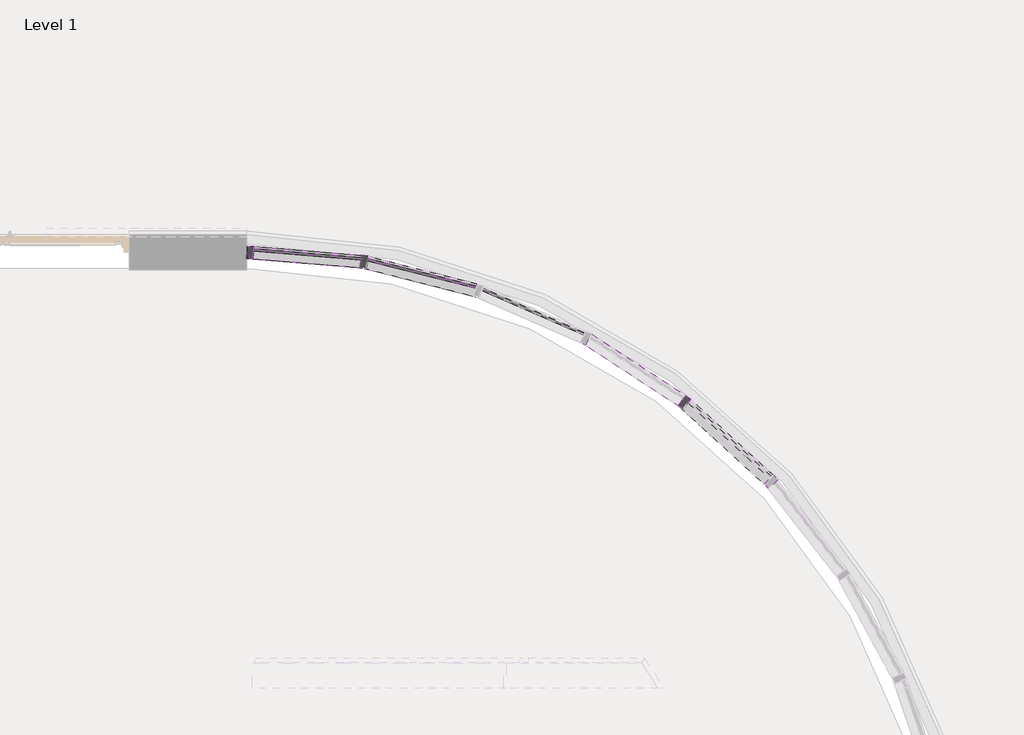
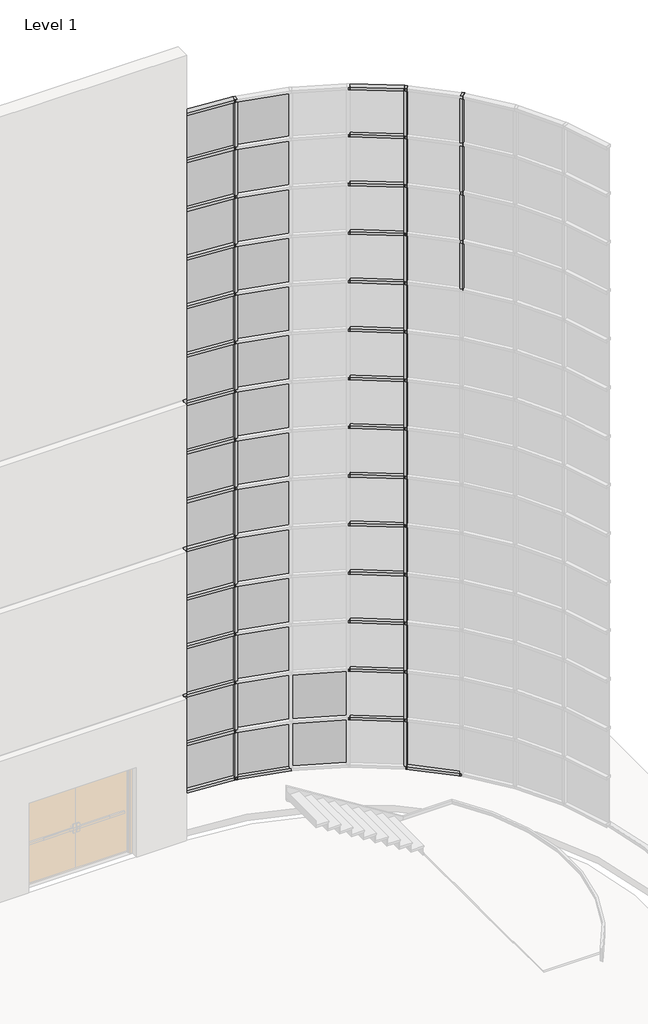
# One storey, part 14 of 20: 77 members, 30 plates.
"""IFC4 building model written with IfcOpenShell, lengths in millimetres."""

from ifc_helpers import new_model, si_unit, origin, place, context, project, spatial, transform, mapped, element, save
from components import member_252506b7, member_68fe8548, member_6fd4d727, member_43d56b1e, member_f830fa99, member_935f61b8, member_e2a7e38a, system_panel_glazed_e4675ec4, system_panel_glazed_da602fa6, system_panel_glazed_b699a21d, system_panel_glazed_77fd207e

model = new_model("IFC4")

# Units and contexts
model_context = context("Model", 3, world=origin())
ifc_project = project(units=[si_unit("LENGTHUNIT", "METRE", prefix="MILLI")], contexts=[model_context])

# Site, building, storey
site = spatial("IfcSite", under=ifc_project)
building = spatial("IfcBuilding", under=site)
storey = spatial("IfcBuildingStorey", under=building, Name="Level 1", Elevation=0.0)

# Members
placement = place(None, origin())
member_shape = member_252506b7(model_context)
element("IfcMember", 1, ObjectType="Rectangular Mullion : 2.5\" x 5\" rectangular", at=placement, inside=storey, context=model_context, shape_type="MappedRepresentation", body=[
    mapped(member_shape, transform((19081.3311433, 4538.4327406, 17983.2), x_axis=(0.0, 0.0, 1.0), y_axis=(-0.08257934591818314, -0.9965844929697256, 0.0), z_axis=(0.9965844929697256, -0.08257934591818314, 0.0))),
])
member_2_shape = member_68fe8548(model_context)
element("IfcMember", 2, ObjectType="Rectangular Mullion : 2.5\" x 5\" rectangular", at=placement, inside=storey, context=model_context, shape_type="MappedRepresentation", body=[
    mapped(member_2_shape, transform((22296.2108179, 3145.2196657, 17983.2), x_axis=(0.0, 0.0, 1.0), y_axis=(-0.5469481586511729, -0.8371664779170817, 0.0), z_axis=(0.8371664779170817, -0.5469481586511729, 0.0))),
])
member_3_shape = member_6fd4d727(model_context)
element("IfcMember", 3, ObjectType="Rectangular Mullion : 2.5\" x 5\" rectangular", at=placement, inside=storey, context=model_context, shape_type="MappedRepresentation", body=[
    mapped(member_3_shape, transform((18001.2170874, 4627.9335435, 1092.2), x_axis=(0.0, 0.0, -1.0), y_axis=(-0.08257934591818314, -0.9965844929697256, 0.0), z_axis=(-0.9965844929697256, 0.08257934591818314, 0.0))),
])
element("IfcMember", 4, ObjectType="Rectangular Mullion : 2.5\" x 5\" rectangular", at=placement, inside=storey, context=model_context, shape_type="MappedRepresentation", body=[
    mapped(member_2_shape, transform((19143.7511594, 4528.0166821, 1092.2), x_axis=(0.0, 0.0, -1.0), y_axis=(-0.2454854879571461, -0.9694002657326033, 0.0), z_axis=(-0.9694002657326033, 0.2454854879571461, 0.0))),
])
element("IfcMember", 5, ObjectType="Rectangular Mullion : 2.5\" x 5\" rectangular", at=placement, inside=storey, context=model_context, shape_type="MappedRepresentation", body=[
    mapped(member_2_shape, transform((22346.1500877, 3106.3503718, 1092.2), x_axis=(0.0, 0.0, -1.0), y_axis=(-0.6772815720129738, -0.735723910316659, 0.0), z_axis=(-0.7357239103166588, 0.6772815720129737, 0.0))),
])
member_4_shape = member_43d56b1e(model_context)
element("IfcMember", 6, ObjectType="Rectangular Mullion : 2.5\" x 5\" rectangular", at=placement, inside=storey, context=model_context, shape_type="MappedRepresentation", body=[
    mapped(member_4_shape, transform((19081.3311433, 4538.4327406, 2298.7), x_axis=(0.0, 0.0, 1.0), y_axis=(-0.08257934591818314, -0.9965844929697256, 0.0), z_axis=(0.9965844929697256, -0.08257934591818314, 0.0))),
])
element("IfcMember", 7, ObjectType="Rectangular Mullion : 2.5\" x 5\" rectangular", at=placement, inside=storey, context=model_context, shape_type="MappedRepresentation", body=[
    mapped(member_4_shape, transform((19081.3311433, 4538.4327406, 3505.2), x_axis=(0.0, 0.0, 1.0), y_axis=(-0.08257934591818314, -0.9965844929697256, 0.0), z_axis=(0.9965844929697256, -0.08257934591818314, 0.0))),
])
element("IfcMember", 8, ObjectType="Rectangular Mullion : 2.5\" x 5\" rectangular", at=placement, inside=storey, context=model_context, shape_type="MappedRepresentation", body=[
    mapped(member_4_shape, transform((19081.3311433, 4538.4327406, 4711.7), x_axis=(0.0, 0.0, 1.0), y_axis=(-0.08257934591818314, -0.9965844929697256, 0.0), z_axis=(0.9965844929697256, -0.08257934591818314, 0.0))),
])
element("IfcMember", 9, ObjectType="Rectangular Mullion : 2.5\" x 5\" rectangular", at=placement, inside=storey, context=model_context, shape_type="MappedRepresentation", body=[
    mapped(member_4_shape, transform((19081.3311433, 4538.4327406, 5918.2), x_axis=(0.0, 0.0, 1.0), y_axis=(-0.08257934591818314, -0.9965844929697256, 0.0), z_axis=(0.9965844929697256, -0.08257934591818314, 0.0))),
])
element("IfcMember", 10, ObjectType="Rectangular Mullion : 2.5\" x 5\" rectangular", at=placement, inside=storey, context=model_context, shape_type="MappedRepresentation", body=[
    mapped(member_4_shape, transform((19081.3311433, 4538.4327406, 7124.7), x_axis=(0.0, 0.0, 1.0), y_axis=(-0.08257934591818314, -0.9965844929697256, 0.0), z_axis=(0.9965844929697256, -0.08257934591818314, 0.0))),
])
element("IfcMember", 11, ObjectType="Rectangular Mullion : 2.5\" x 5\" rectangular", at=placement, inside=storey, context=model_context, shape_type="MappedRepresentation", body=[
    mapped(member_4_shape, transform((19081.3311433, 4538.4327406, 8331.2), x_axis=(0.0, 0.0, 1.0), y_axis=(-0.08257934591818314, -0.9965844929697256, 0.0), z_axis=(0.9965844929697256, -0.08257934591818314, 0.0))),
])
element("IfcMember", 12, ObjectType="Rectangular Mullion : 2.5\" x 5\" rectangular", at=placement, inside=storey, context=model_context, shape_type="MappedRepresentation", body=[
    mapped(member_4_shape, transform((19081.3311433, 4538.4327406, 9537.7), x_axis=(0.0, 0.0, 1.0), y_axis=(-0.08257934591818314, -0.9965844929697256, 0.0), z_axis=(0.9965844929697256, -0.08257934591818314, 0.0))),
])
element("IfcMember", 13, ObjectType="Rectangular Mullion : 2.5\" x 5\" rectangular", at=placement, inside=storey, context=model_context, shape_type="MappedRepresentation", body=[
    mapped(member_4_shape, transform((19081.3311433, 4538.4327406, 10744.2), x_axis=(0.0, 0.0, 1.0), y_axis=(-0.08257934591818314, -0.9965844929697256, 0.0), z_axis=(0.9965844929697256, -0.08257934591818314, 0.0))),
])
element("IfcMember", 14, ObjectType="Rectangular Mullion : 2.5\" x 5\" rectangular", at=placement, inside=storey, context=model_context, shape_type="MappedRepresentation", body=[
    mapped(member_4_shape, transform((19081.3311433, 4538.4327406, 11950.7), x_axis=(0.0, 0.0, 1.0), y_axis=(-0.08257934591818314, -0.9965844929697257, 0.0), z_axis=(0.9965844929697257, -0.08257934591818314, 0.0))),
])
element("IfcMember", 15, ObjectType="Rectangular Mullion : 2.5\" x 5\" rectangular", at=placement, inside=storey, context=model_context, shape_type="MappedRepresentation", body=[
    mapped(member_4_shape, transform((19081.3311433, 4538.4327406, 13157.2), x_axis=(0.0, 0.0, 1.0), y_axis=(-0.08257934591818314, -0.9965844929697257, 0.0), z_axis=(0.9965844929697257, -0.08257934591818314, 0.0))),
])
element("IfcMember", 16, ObjectType="Rectangular Mullion : 2.5\" x 5\" rectangular", at=placement, inside=storey, context=model_context, shape_type="MappedRepresentation", body=[
    mapped(member_4_shape, transform((19081.3311433, 4538.4327406, 14363.7), x_axis=(0.0, 0.0, 1.0), y_axis=(-0.08257934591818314, -0.9965844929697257, 0.0), z_axis=(0.9965844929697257, -0.08257934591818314, 0.0))),
])
element("IfcMember", 17, ObjectType="Rectangular Mullion : 2.5\" x 5\" rectangular", at=placement, inside=storey, context=model_context, shape_type="MappedRepresentation", body=[
    mapped(member_4_shape, transform((19081.3311433, 4538.4327406, 15570.2), x_axis=(0.0, 0.0, 1.0), y_axis=(-0.08257934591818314, -0.9965844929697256, 0.0), z_axis=(0.9965844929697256, -0.08257934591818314, 0.0))),
])
element("IfcMember", 18, ObjectType="Rectangular Mullion : 2.5\" x 5\" rectangular", at=placement, inside=storey, context=model_context, shape_type="MappedRepresentation", body=[
    mapped(member_4_shape, transform((19081.3311433, 4538.4327406, 16776.7), x_axis=(0.0, 0.0, 1.0), y_axis=(-0.08257934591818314, -0.9965844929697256, 0.0), z_axis=(0.9965844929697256, -0.08257934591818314, 0.0))),
])
member_5_shape = member_f830fa99(model_context)
element("IfcMember", 19, ObjectType="Rectangular Mullion : 2.5\" x 5\" rectangular", at=placement, inside=storey, context=model_context, shape_type="MappedRepresentation", body=[
    mapped(member_5_shape, transform((22296.2108179, 3145.2196657, 2298.7), x_axis=(0.0, 0.0, 1.0), y_axis=(-0.5469481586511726, -0.8371664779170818, 0.0), z_axis=(0.8371664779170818, -0.5469481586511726, 0.0))),
])
element("IfcMember", 20, ObjectType="Rectangular Mullion : 2.5\" x 5\" rectangular", at=placement, inside=storey, context=model_context, shape_type="MappedRepresentation", body=[
    mapped(member_5_shape, transform((22296.2108179, 3145.2196657, 3505.2), x_axis=(0.0, 0.0, 1.0), y_axis=(-0.546948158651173, -0.8371664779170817, 0.0), z_axis=(0.8371664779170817, -0.546948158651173, 0.0))),
])
element("IfcMember", 21, ObjectType="Rectangular Mullion : 2.5\" x 5\" rectangular", at=placement, inside=storey, context=model_context, shape_type="MappedRepresentation", body=[
    mapped(member_5_shape, transform((22296.2108179, 3145.2196657, 4711.7), x_axis=(0.0, 0.0, 1.0), y_axis=(-0.546948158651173, -0.8371664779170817, 0.0), z_axis=(0.8371664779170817, -0.546948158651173, 0.0))),
])
element("IfcMember", 22, ObjectType="Rectangular Mullion : 2.5\" x 5\" rectangular", at=placement, inside=storey, context=model_context, shape_type="MappedRepresentation", body=[
    mapped(member_5_shape, transform((22296.2108179, 3145.2196657, 5918.2), x_axis=(0.0, 0.0, 1.0), y_axis=(-0.5469481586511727, -0.8371664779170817, 0.0), z_axis=(0.8371664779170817, -0.5469481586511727, 0.0))),
])
element("IfcMember", 23, ObjectType="Rectangular Mullion : 2.5\" x 5\" rectangular", at=placement, inside=storey, context=model_context, shape_type="MappedRepresentation", body=[
    mapped(member_5_shape, transform((22296.2108179, 3145.2196657, 7124.7), x_axis=(0.0, 0.0, 1.0), y_axis=(-0.5469481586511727, -0.8371664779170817, 0.0), z_axis=(0.8371664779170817, -0.5469481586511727, 0.0))),
])
element("IfcMember", 24, ObjectType="Rectangular Mullion : 2.5\" x 5\" rectangular", at=placement, inside=storey, context=model_context, shape_type="MappedRepresentation", body=[
    mapped(member_5_shape, transform((22296.2108179, 3145.2196657, 8331.2), x_axis=(0.0, 0.0, 1.0), y_axis=(-0.546948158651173, -0.8371664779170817, 0.0), z_axis=(0.8371664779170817, -0.546948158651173, 0.0))),
])
element("IfcMember", 25, ObjectType="Rectangular Mullion : 2.5\" x 5\" rectangular", at=placement, inside=storey, context=model_context, shape_type="MappedRepresentation", body=[
    mapped(member_5_shape, transform((22296.2108179, 3145.2196657, 9537.7), x_axis=(0.0, 0.0, 1.0), y_axis=(-0.546948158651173, -0.8371664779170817, 0.0), z_axis=(0.8371664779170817, -0.546948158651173, 0.0))),
])
element("IfcMember", 26, ObjectType="Rectangular Mullion : 2.5\" x 5\" rectangular", at=placement, inside=storey, context=model_context, shape_type="MappedRepresentation", body=[
    mapped(member_5_shape, transform((22296.2108179, 3145.2196657, 10744.2), x_axis=(0.0, 0.0, 1.0), y_axis=(-0.5469481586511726, -0.8371664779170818, 0.0), z_axis=(0.8371664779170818, -0.5469481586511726, 0.0))),
])
element("IfcMember", 27, ObjectType="Rectangular Mullion : 2.5\" x 5\" rectangular", at=placement, inside=storey, context=model_context, shape_type="MappedRepresentation", body=[
    mapped(member_5_shape, transform((22296.2108179, 3145.2196657, 11950.7), x_axis=(0.0, 0.0, 1.0), y_axis=(-0.546948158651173, -0.8371664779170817, 0.0), z_axis=(0.8371664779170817, -0.546948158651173, 0.0))),
])
element("IfcMember", 28, ObjectType="Rectangular Mullion : 2.5\" x 5\" rectangular", at=placement, inside=storey, context=model_context, shape_type="MappedRepresentation", body=[
    mapped(member_5_shape, transform((22296.2108179, 3145.2196657, 13157.2), x_axis=(0.0, 0.0, 1.0), y_axis=(-0.5469481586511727, -0.8371664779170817, 0.0), z_axis=(0.8371664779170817, -0.5469481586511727, 0.0))),
])
element("IfcMember", 29, ObjectType="Rectangular Mullion : 2.5\" x 5\" rectangular", at=placement, inside=storey, context=model_context, shape_type="MappedRepresentation", body=[
    mapped(member_5_shape, transform((22296.2108179, 3145.2196657, 14363.7), x_axis=(0.0, 0.0, 1.0), y_axis=(-0.5469481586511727, -0.8371664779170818, 0.0), z_axis=(0.8371664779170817, -0.5469481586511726, 0.0))),
])
element("IfcMember", 30, ObjectType="Rectangular Mullion : 2.5\" x 5\" rectangular", at=placement, inside=storey, context=model_context, shape_type="MappedRepresentation", body=[
    mapped(member_5_shape, transform((22296.2108179, 3145.2196657, 15570.2), x_axis=(0.0, 0.0, 1.0), y_axis=(-0.546948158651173, -0.8371664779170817, 0.0), z_axis=(0.8371664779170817, -0.546948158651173, 0.0))),
])
element("IfcMember", 31, ObjectType="Rectangular Mullion : 2.5\" x 5\" rectangular", at=placement, inside=storey, context=model_context, shape_type="MappedRepresentation", body=[
    mapped(member_5_shape, transform((22296.2108179, 3145.2196657, 16776.7), x_axis=(0.0, 0.0, 1.0), y_axis=(-0.546948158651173, -0.8371664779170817, 0.0), z_axis=(0.8371664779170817, -0.546948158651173, 0.0))),
])
member_6_shape = member_935f61b8(model_context)
element("IfcMember", 32, ObjectType="Rectangular Mullion : 2.5\" x 5\" rectangular", at=placement, inside=storey, context=model_context, shape_type="MappedRepresentation", body=[
    mapped(member_6_shape, transform((19112.972701, 4535.8108464, 1092.2), x_axis=(0.9863613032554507, -0.16459459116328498, 0.0), y_axis=(-0.16459459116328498, -0.9863613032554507, 0.0), z_axis=(0.0, 0.0, -1.0))),
])
element("IfcMember", 33, ObjectType="Rectangular Mullion : 2.5\" x 5\" rectangular", at=placement, inside=storey, context=model_context, shape_type="MappedRepresentation", body=[
    mapped(member_6_shape, transform((22322.7908536, 3127.8540617, 1092.2), x_axis=(0.789140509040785, -0.6142127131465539, 0.0), y_axis=(-0.6142127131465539, -0.789140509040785, 0.0), z_axis=(0.0, 0.0, -1.0))),
])
element("IfcMember", 34, ObjectType="Rectangular Mullion : 2.5\" x 5\" rectangular", at=placement, inside=storey, context=model_context, shape_type="MappedRepresentation", body=[
    mapped(member_6_shape, transform((19112.972701, 4535.8108464, 2298.7), x_axis=(0.9863613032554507, -0.16459459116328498, 0.0), y_axis=(-0.16459459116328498, -0.9863613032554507, 0.0), z_axis=(0.0, 0.0, -1.0))),
])
element("IfcMember", 35, ObjectType="Rectangular Mullion : 2.5\" x 5\" rectangular", at=placement, inside=storey, context=model_context, shape_type="MappedRepresentation", body=[
    mapped(member_6_shape, transform((22322.7908536, 3127.8540617, 2298.7), x_axis=(0.789140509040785, -0.6142127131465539, 0.0), y_axis=(-0.6142127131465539, -0.789140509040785, 0.0), z_axis=(0.0, 0.0, -1.0))),
])
element("IfcMember", 36, ObjectType="Rectangular Mullion : 2.5\" x 5\" rectangular", at=placement, inside=storey, context=model_context, shape_type="MappedRepresentation", body=[
    mapped(member_6_shape, transform((19112.972701, 4535.8108464, 3505.2), x_axis=(0.9863613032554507, -0.16459459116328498, 0.0), y_axis=(-0.16459459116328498, -0.9863613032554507, 0.0), z_axis=(0.0, 0.0, -1.0))),
])
element("IfcMember", 37, ObjectType="Rectangular Mullion : 2.5\" x 5\" rectangular", at=placement, inside=storey, context=model_context, shape_type="MappedRepresentation", body=[
    mapped(member_6_shape, transform((22322.7908536, 3127.8540617, 3505.2), x_axis=(0.789140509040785, -0.6142127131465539, 0.0), y_axis=(-0.6142127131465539, -0.789140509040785, 0.0), z_axis=(0.0, 0.0, -1.0))),
])
element("IfcMember", 38, ObjectType="Rectangular Mullion : 2.5\" x 5\" rectangular", at=placement, inside=storey, context=model_context, shape_type="MappedRepresentation", body=[
    mapped(member_6_shape, transform((19112.972701, 4535.8108464, 4711.7), x_axis=(0.9863613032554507, -0.16459459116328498, 0.0), y_axis=(-0.16459459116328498, -0.9863613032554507, 0.0), z_axis=(0.0, 0.0, -1.0))),
])
element("IfcMember", 39, ObjectType="Rectangular Mullion : 2.5\" x 5\" rectangular", at=placement, inside=storey, context=model_context, shape_type="MappedRepresentation", body=[
    mapped(member_6_shape, transform((22322.7908536, 3127.8540617, 4711.7), x_axis=(0.789140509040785, -0.6142127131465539, 0.0), y_axis=(-0.6142127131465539, -0.789140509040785, 0.0), z_axis=(0.0, 0.0, -1.0))),
])
element("IfcMember", 40, ObjectType="Rectangular Mullion : 2.5\" x 5\" rectangular", at=placement, inside=storey, context=model_context, shape_type="MappedRepresentation", body=[
    mapped(member_6_shape, transform((19112.972701, 4535.8108464, 5918.2), x_axis=(0.9863613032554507, -0.16459459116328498, 0.0), y_axis=(-0.16459459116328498, -0.9863613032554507, 0.0), z_axis=(0.0, 0.0, -1.0))),
])
element("IfcMember", 41, ObjectType="Rectangular Mullion : 2.5\" x 5\" rectangular", at=placement, inside=storey, context=model_context, shape_type="MappedRepresentation", body=[
    mapped(member_6_shape, transform((22322.7908536, 3127.8540617, 5918.2), x_axis=(0.789140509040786, -0.6142127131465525, 0.0), y_axis=(-0.6142127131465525, -0.789140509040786, 0.0), z_axis=(0.0, 0.0, -1.0))),
])
element("IfcMember", 42, ObjectType="Rectangular Mullion : 2.5\" x 5\" rectangular", at=placement, inside=storey, context=model_context, shape_type="MappedRepresentation", body=[
    mapped(member_6_shape, transform((19112.972701, 4535.8108464, 7124.7), x_axis=(0.9863613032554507, -0.16459459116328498, 0.0), y_axis=(-0.16459459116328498, -0.9863613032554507, 0.0), z_axis=(0.0, 0.0, -1.0))),
])
element("IfcMember", 43, ObjectType="Rectangular Mullion : 2.5\" x 5\" rectangular", at=placement, inside=storey, context=model_context, shape_type="MappedRepresentation", body=[
    mapped(member_6_shape, transform((22322.7908536, 3127.8540617, 7124.7), x_axis=(0.789140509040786, -0.6142127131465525, 0.0), y_axis=(-0.6142127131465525, -0.789140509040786, 0.0), z_axis=(0.0, 0.0, -1.0))),
])
element("IfcMember", 44, ObjectType="Rectangular Mullion : 2.5\" x 5\" rectangular", at=placement, inside=storey, context=model_context, shape_type="MappedRepresentation", body=[
    mapped(member_6_shape, transform((19112.972701, 4535.8108464, 8331.2), x_axis=(0.9863613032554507, -0.16459459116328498, 0.0), y_axis=(-0.16459459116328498, -0.9863613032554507, 0.0), z_axis=(0.0, 0.0, -1.0))),
])
element("IfcMember", 45, ObjectType="Rectangular Mullion : 2.5\" x 5\" rectangular", at=placement, inside=storey, context=model_context, shape_type="MappedRepresentation", body=[
    mapped(member_6_shape, transform((22322.7908536, 3127.8540617, 8331.2), x_axis=(0.789140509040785, -0.6142127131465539, 0.0), y_axis=(-0.6142127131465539, -0.789140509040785, 0.0), z_axis=(0.0, 0.0, -1.0))),
])
element("IfcMember", 46, ObjectType="Rectangular Mullion : 2.5\" x 5\" rectangular", at=placement, inside=storey, context=model_context, shape_type="MappedRepresentation", body=[
    mapped(member_6_shape, transform((19112.972701, 4535.8108464, 9537.7), x_axis=(0.9863613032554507, -0.16459459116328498, 0.0), y_axis=(-0.16459459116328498, -0.9863613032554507, 0.0), z_axis=(0.0, 0.0, -1.0))),
])
element("IfcMember", 47, ObjectType="Rectangular Mullion : 2.5\" x 5\" rectangular", at=placement, inside=storey, context=model_context, shape_type="MappedRepresentation", body=[
    mapped(member_6_shape, transform((22322.7908536, 3127.8540617, 9537.7), x_axis=(0.789140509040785, -0.6142127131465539, 0.0), y_axis=(-0.6142127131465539, -0.789140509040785, 0.0), z_axis=(0.0, 0.0, -1.0))),
])
element("IfcMember", 48, ObjectType="Rectangular Mullion : 2.5\" x 5\" rectangular", at=placement, inside=storey, context=model_context, shape_type="MappedRepresentation", body=[
    mapped(member_6_shape, transform((19112.972701, 4535.8108464, 10744.2), x_axis=(0.9863613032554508, -0.1645945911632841, 0.0), y_axis=(-0.1645945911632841, -0.9863613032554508, 0.0), z_axis=(0.0, 0.0, -1.0))),
])
element("IfcMember", 49, ObjectType="Rectangular Mullion : 2.5\" x 5\" rectangular", at=placement, inside=storey, context=model_context, shape_type="MappedRepresentation", body=[
    mapped(member_6_shape, transform((22322.7908536, 3127.8540617, 10744.2), x_axis=(0.789140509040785, -0.6142127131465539, 0.0), y_axis=(-0.6142127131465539, -0.789140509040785, 0.0), z_axis=(0.0, 0.0, -1.0))),
])
element("IfcMember", 50, ObjectType="Rectangular Mullion : 2.5\" x 5\" rectangular", at=placement, inside=storey, context=model_context, shape_type="MappedRepresentation", body=[
    mapped(member_6_shape, transform((19112.972701, 4535.8108464, 11950.7), x_axis=(0.9863613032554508, -0.1645945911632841, 0.0), y_axis=(-0.1645945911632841, -0.9863613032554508, 0.0), z_axis=(0.0, 0.0, -1.0))),
])
element("IfcMember", 51, ObjectType="Rectangular Mullion : 2.5\" x 5\" rectangular", at=placement, inside=storey, context=model_context, shape_type="MappedRepresentation", body=[
    mapped(member_6_shape, transform((22322.7908536, 3127.8540617, 11950.7), x_axis=(0.789140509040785, -0.6142127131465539, 0.0), y_axis=(-0.6142127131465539, -0.789140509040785, 0.0), z_axis=(0.0, 0.0, -1.0))),
])
element("IfcMember", 52, ObjectType="Rectangular Mullion : 2.5\" x 5\" rectangular", at=placement, inside=storey, context=model_context, shape_type="MappedRepresentation", body=[
    mapped(member_6_shape, transform((19112.972701, 4535.8108464, 13157.2), x_axis=(0.9863613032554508, -0.1645945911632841, 0.0), y_axis=(-0.1645945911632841, -0.9863613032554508, 0.0), z_axis=(0.0, 0.0, -1.0))),
])
element("IfcMember", 53, ObjectType="Rectangular Mullion : 2.5\" x 5\" rectangular", at=placement, inside=storey, context=model_context, shape_type="MappedRepresentation", body=[
    mapped(member_6_shape, transform((22322.7908536, 3127.8540617, 13157.2), x_axis=(0.789140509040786, -0.6142127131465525, 0.0), y_axis=(-0.6142127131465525, -0.789140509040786, 0.0), z_axis=(0.0, 0.0, -1.0))),
])
element("IfcMember", 54, ObjectType="Rectangular Mullion : 2.5\" x 5\" rectangular", at=placement, inside=storey, context=model_context, shape_type="MappedRepresentation", body=[
    mapped(member_6_shape, transform((23190.2577761, 2329.2945033, 13157.2), x_axis=(0.6772815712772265, -0.7357239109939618, 0.0), y_axis=(-0.7357239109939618, -0.6772815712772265, 0.0), z_axis=(0.0, 0.0, -1.0))),
])
element("IfcMember", 55, ObjectType="Rectangular Mullion : 2.5\" x 5\" rectangular", at=placement, inside=storey, context=model_context, shape_type="MappedRepresentation", body=[
    mapped(member_6_shape, transform((19112.972701, 4535.8108464, 14363.7), x_axis=(0.9863613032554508, -0.1645945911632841, 0.0), y_axis=(-0.1645945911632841, -0.9863613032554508, 0.0), z_axis=(0.0, 0.0, -1.0))),
])
element("IfcMember", 56, ObjectType="Rectangular Mullion : 2.5\" x 5\" rectangular", at=placement, inside=storey, context=model_context, shape_type="MappedRepresentation", body=[
    mapped(member_6_shape, transform((22322.7908536, 3127.8540617, 14363.7), x_axis=(0.789140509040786, -0.6142127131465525, 0.0), y_axis=(-0.6142127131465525, -0.789140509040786, 0.0), z_axis=(0.0, 0.0, -1.0))),
])
element("IfcMember", 57, ObjectType="Rectangular Mullion : 2.5\" x 5\" rectangular", at=placement, inside=storey, context=model_context, shape_type="MappedRepresentation", body=[
    mapped(member_6_shape, transform((23190.2577761, 2329.2945033, 14363.7), x_axis=(0.6772815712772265, -0.7357239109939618, 0.0), y_axis=(-0.7357239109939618, -0.6772815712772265, 0.0), z_axis=(0.0, 0.0, -1.0))),
])
element("IfcMember", 58, ObjectType="Rectangular Mullion : 2.5\" x 5\" rectangular", at=placement, inside=storey, context=model_context, shape_type="MappedRepresentation", body=[
    mapped(member_6_shape, transform((19112.972701, 4535.8108464, 15570.2), x_axis=(0.9863613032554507, -0.16459459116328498, 0.0), y_axis=(-0.16459459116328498, -0.9863613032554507, 0.0), z_axis=(0.0, 0.0, -1.0))),
])
element("IfcMember", 59, ObjectType="Rectangular Mullion : 2.5\" x 5\" rectangular", at=placement, inside=storey, context=model_context, shape_type="MappedRepresentation", body=[
    mapped(member_6_shape, transform((22322.7908536, 3127.8540617, 15570.2), x_axis=(0.789140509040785, -0.6142127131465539, 0.0), y_axis=(-0.6142127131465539, -0.789140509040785, 0.0), z_axis=(0.0, 0.0, -1.0))),
])
element("IfcMember", 60, ObjectType="Rectangular Mullion : 2.5\" x 5\" rectangular", at=placement, inside=storey, context=model_context, shape_type="MappedRepresentation", body=[
    mapped(member_6_shape, transform((23190.2577761, 2329.2945033, 15570.2), x_axis=(0.6772815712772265, -0.7357239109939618, 0.0), y_axis=(-0.7357239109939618, -0.6772815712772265, 0.0), z_axis=(0.0, 0.0, -1.0))),
])
element("IfcMember", 61, ObjectType="Rectangular Mullion : 2.5\" x 5\" rectangular", at=placement, inside=storey, context=model_context, shape_type="MappedRepresentation", body=[
    mapped(member_6_shape, transform((19112.972701, 4535.8108464, 16776.7), x_axis=(0.9863613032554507, -0.16459459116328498, 0.0), y_axis=(-0.16459459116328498, -0.9863613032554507, 0.0), z_axis=(0.0, 0.0, -1.0))),
])
element("IfcMember", 62, ObjectType="Rectangular Mullion : 2.5\" x 5\" rectangular", at=placement, inside=storey, context=model_context, shape_type="MappedRepresentation", body=[
    mapped(member_6_shape, transform((22322.7908536, 3127.8540617, 16776.7), x_axis=(0.789140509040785, -0.6142127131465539, 0.0), y_axis=(-0.6142127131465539, -0.789140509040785, 0.0), z_axis=(0.0, 0.0, -1.0))),
])
element("IfcMember", 63, ObjectType="Rectangular Mullion : 2.5\" x 5\" rectangular", at=placement, inside=storey, context=model_context, shape_type="MappedRepresentation", body=[
    mapped(member_6_shape, transform((23190.2577761, 2329.2945033, 16776.7), x_axis=(0.6772815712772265, -0.7357239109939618, 0.0), y_axis=(-0.7357239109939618, -0.6772815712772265, 0.0), z_axis=(0.0, 0.0, -1.0))),
])
member_7_shape = member_e2a7e38a(model_context)
element("IfcMember", 64, ObjectType="Rectangular Mullion : 2.5\" x 5\" rectangular", at=placement, inside=storey, context=model_context, shape_type="MappedRepresentation", body=[
    mapped(member_7_shape, transform((17937.9339721, 4633.1773319, 17983.2), x_axis=(-0.9965844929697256, 0.08257934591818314, 0.0), y_axis=(-0.08257934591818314, -0.9965844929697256, 0.0), z_axis=(0.0, 0.0, 1.0))),
])
element("IfcMember", 65, ObjectType="Rectangular Mullion : 2.5\" x 5\" rectangular", at=placement, inside=storey, context=model_context, shape_type="MappedRepresentation", body=[
    mapped(member_7_shape, transform((17937.9339721, 4633.1773319, 2298.7), x_axis=(-0.9965844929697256, 0.08257934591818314, 0.0), y_axis=(-0.08257934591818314, -0.9965844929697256, 0.0), z_axis=(0.0, 0.0, 1.0))),
])
element("IfcMember", 66, ObjectType="Rectangular Mullion : 2.5\" x 5\" rectangular", at=placement, inside=storey, context=model_context, shape_type="MappedRepresentation", body=[
    mapped(member_7_shape, transform((17937.9339721, 4633.1773319, 3505.2), x_axis=(-0.9965844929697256, 0.08257934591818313, 0.0), y_axis=(-0.08257934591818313, -0.9965844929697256, 0.0), z_axis=(0.0, 0.0, 1.0))),
])
element("IfcMember", 67, ObjectType="Rectangular Mullion : 2.5\" x 5\" rectangular", at=placement, inside=storey, context=model_context, shape_type="MappedRepresentation", body=[
    mapped(member_7_shape, transform((17937.9339721, 4633.1773319, 4711.7), x_axis=(-0.9965844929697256, 0.08257934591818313, 0.0), y_axis=(-0.08257934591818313, -0.9965844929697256, 0.0), z_axis=(0.0, 0.0, 1.0))),
])
element("IfcMember", 68, ObjectType="Rectangular Mullion : 2.5\" x 5\" rectangular", at=placement, inside=storey, context=model_context, shape_type="MappedRepresentation", body=[
    mapped(member_7_shape, transform((17937.9339721, 4633.1773319, 5918.2), x_axis=(-0.9965844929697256, 0.08257934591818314, 0.0), y_axis=(-0.08257934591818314, -0.9965844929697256, 0.0), z_axis=(0.0, 0.0, 1.0))),
])
element("IfcMember", 69, ObjectType="Rectangular Mullion : 2.5\" x 5\" rectangular", at=placement, inside=storey, context=model_context, shape_type="MappedRepresentation", body=[
    mapped(member_7_shape, transform((17937.9339721, 4633.1773319, 7124.7), x_axis=(-0.9965844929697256, 0.08257934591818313, 0.0), y_axis=(-0.08257934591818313, -0.9965844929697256, 0.0), z_axis=(0.0, 0.0, 1.0))),
])
element("IfcMember", 70, ObjectType="Rectangular Mullion : 2.5\" x 5\" rectangular", at=placement, inside=storey, context=model_context, shape_type="MappedRepresentation", body=[
    mapped(member_7_shape, transform((17937.9339721, 4633.1773319, 8331.2), x_axis=(-0.9965844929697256, 0.08257934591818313, 0.0), y_axis=(-0.08257934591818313, -0.9965844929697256, 0.0), z_axis=(0.0, 0.0, 1.0))),
])
element("IfcMember", 71, ObjectType="Rectangular Mullion : 2.5\" x 5\" rectangular", at=placement, inside=storey, context=model_context, shape_type="MappedRepresentation", body=[
    mapped(member_7_shape, transform((17937.9339721, 4633.1773319, 9537.7), x_axis=(-0.9965844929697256, 0.08257934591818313, 0.0), y_axis=(-0.08257934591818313, -0.9965844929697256, 0.0), z_axis=(0.0, 0.0, 1.0))),
])
element("IfcMember", 72, ObjectType="Rectangular Mullion : 2.5\" x 5\" rectangular", at=placement, inside=storey, context=model_context, shape_type="MappedRepresentation", body=[
    mapped(member_7_shape, transform((17937.9339721, 4633.1773319, 10744.2), x_axis=(-0.9965844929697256, 0.08257934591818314, 0.0), y_axis=(-0.08257934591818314, -0.9965844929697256, 0.0), z_axis=(0.0, 0.0, 1.0))),
])
element("IfcMember", 73, ObjectType="Rectangular Mullion : 2.5\" x 5\" rectangular", at=placement, inside=storey, context=model_context, shape_type="MappedRepresentation", body=[
    mapped(member_7_shape, transform((17937.9339721, 4633.1773319, 11950.7), x_axis=(-0.9965844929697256, 0.08257934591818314, 0.0), y_axis=(-0.08257934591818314, -0.9965844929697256, 0.0), z_axis=(0.0, 0.0, 1.0))),
])
element("IfcMember", 74, ObjectType="Rectangular Mullion : 2.5\" x 5\" rectangular", at=placement, inside=storey, context=model_context, shape_type="MappedRepresentation", body=[
    mapped(member_7_shape, transform((17937.9339721, 4633.1773319, 13157.2), x_axis=(-0.9965844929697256, 0.08257934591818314, 0.0), y_axis=(-0.08257934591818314, -0.9965844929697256, 0.0), z_axis=(0.0, 0.0, 1.0))),
])
element("IfcMember", 75, ObjectType="Rectangular Mullion : 2.5\" x 5\" rectangular", at=placement, inside=storey, context=model_context, shape_type="MappedRepresentation", body=[
    mapped(member_7_shape, transform((17937.9339721, 4633.1773319, 14363.7), x_axis=(-0.9965844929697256, 0.08257934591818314, 0.0), y_axis=(-0.08257934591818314, -0.9965844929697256, 0.0), z_axis=(0.0, 0.0, 1.0))),
])
element("IfcMember", 76, ObjectType="Rectangular Mullion : 2.5\" x 5\" rectangular", at=placement, inside=storey, context=model_context, shape_type="MappedRepresentation", body=[
    mapped(member_7_shape, transform((17937.9339721, 4633.1773319, 15570.2), x_axis=(-0.9965844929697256, 0.08257934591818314, 0.0), y_axis=(-0.08257934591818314, -0.9965844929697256, 0.0), z_axis=(0.0, 0.0, 1.0))),
])
element("IfcMember", 77, ObjectType="Rectangular Mullion : 2.5\" x 5\" rectangular", at=placement, inside=storey, context=model_context, shape_type="MappedRepresentation", body=[
    mapped(member_7_shape, transform((17937.9339721, 4633.1773319, 16776.7), x_axis=(-0.9965844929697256, 0.08257934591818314, 0.0), y_axis=(-0.08257934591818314, -0.9965844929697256, 0.0), z_axis=(0.0, 0.0, 1.0))),
])

# Plates
system_panel_glazed_shape = system_panel_glazed_e4675ec4(model_context)
element("IfcPlate", 78, ObjectType="System Panel : Glazed", at=placement, inside=storey, context=model_context, shape_type="MappedRepresentation", body=[
    mapped(system_panel_glazed_shape, transform((18541.2741154, 4583.183142, 1155.7), x_axis=(0.9965844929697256, -0.08257934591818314, 0.0), y_axis=(0.08257934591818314, 0.9965844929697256, 0.0), z_axis=(0.0, 0.0, 1.0))),
])
element("IfcPlate", 79, ObjectType="System Panel : Glazed", at=placement, inside=storey, context=model_context, shape_type="MappedRepresentation", body=[
    mapped(system_panel_glazed_shape, transform((18541.2741154, 4583.183142, 16808.45), x_axis=(0.9965844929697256, -0.08257934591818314, 0.0), y_axis=(0.08257934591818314, 0.9965844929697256, 0.0), z_axis=(0.0, 0.0, 1.0))),
])
system_panel_glazed_2_shape = system_panel_glazed_da602fa6(model_context)
element("IfcPlate", 80, ObjectType="System Panel : Glazed", at=placement, inside=storey, context=model_context, shape_type="MappedRepresentation", body=[
    mapped(system_panel_glazed_2_shape, transform((19684.4660652, 4391.0890711, 1155.7), x_axis=(0.9694002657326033, -0.24548548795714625, 0.0), y_axis=(0.24548548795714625, 0.9694002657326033, 0.0), z_axis=(0.0, 0.0, 1.0))),
])
element("IfcPlate", 81, ObjectType="System Panel : Glazed", at=placement, inside=storey, context=model_context, shape_type="MappedRepresentation", body=[
    mapped(system_panel_glazed_2_shape, transform((20795.8379476, 4009.554621, 1155.7), x_axis=(0.9157733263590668, -0.40169542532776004, 0.0), y_axis=(0.40169542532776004, 0.9157733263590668, 0.0), z_axis=(0.0, 0.0, 1.0))),
])
element("IfcPlate", 82, ObjectType="System Panel : Glazed", at=placement, inside=storey, context=model_context, shape_type="MappedRepresentation", body=[
    mapped(system_panel_glazed_2_shape, transform((19684.4660652, 4391.0890711, 16808.45), x_axis=(0.9694002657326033, -0.24548548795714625, 0.0), y_axis=(0.24548548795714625, 0.9694002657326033, 0.0), z_axis=(0.0, 0.0, 1.0))),
])
system_panel_glazed_3_shape = system_panel_glazed_b699a21d(model_context)
element("IfcPlate", 83, ObjectType="System Panel : Glazed", at=placement, inside=storey, context=model_context, shape_type="MappedRepresentation", body=[
    mapped(system_panel_glazed_3_shape, transform((18541.2741154, 4583.183142, 2330.45), x_axis=(0.9965844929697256, -0.08257934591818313, 0.0), y_axis=(0.08257934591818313, 0.9965844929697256, 0.0), z_axis=(0.0, 0.0, 1.0))),
])
element("IfcPlate", 84, ObjectType="System Panel : Glazed", at=placement, inside=storey, context=model_context, shape_type="MappedRepresentation", body=[
    mapped(system_panel_glazed_3_shape, transform((18541.2741154, 4583.183142, 3536.95), x_axis=(0.9965844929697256, -0.08257934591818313, 0.0), y_axis=(0.08257934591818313, 0.9965844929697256, 0.0), z_axis=(0.0, 0.0, 1.0))),
])
element("IfcPlate", 85, ObjectType="System Panel : Glazed", at=placement, inside=storey, context=model_context, shape_type="MappedRepresentation", body=[
    mapped(system_panel_glazed_3_shape, transform((18541.2741154, 4583.183142, 4743.45), x_axis=(0.9965844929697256, -0.08257934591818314, 0.0), y_axis=(0.08257934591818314, 0.9965844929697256, 0.0), z_axis=(0.0, 0.0, 1.0))),
])
element("IfcPlate", 86, ObjectType="System Panel : Glazed", at=placement, inside=storey, context=model_context, shape_type="MappedRepresentation", body=[
    mapped(system_panel_glazed_3_shape, transform((18541.2741154, 4583.183142, 5949.95), x_axis=(0.9965844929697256, -0.08257934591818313, 0.0), y_axis=(0.08257934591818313, 0.9965844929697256, 0.0), z_axis=(0.0, 0.0, 1.0))),
])
element("IfcPlate", 87, ObjectType="System Panel : Glazed", at=placement, inside=storey, context=model_context, shape_type="MappedRepresentation", body=[
    mapped(system_panel_glazed_3_shape, transform((18541.2741154, 4583.183142, 7156.45), x_axis=(0.9965844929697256, -0.08257934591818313, 0.0), y_axis=(0.08257934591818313, 0.9965844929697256, 0.0), z_axis=(0.0, 0.0, 1.0))),
])
element("IfcPlate", 88, ObjectType="System Panel : Glazed", at=placement, inside=storey, context=model_context, shape_type="MappedRepresentation", body=[
    mapped(system_panel_glazed_3_shape, transform((18541.2741154, 4583.183142, 8362.95), x_axis=(0.9965844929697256, -0.08257934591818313, 0.0), y_axis=(0.08257934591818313, 0.9965844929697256, 0.0), z_axis=(0.0, 0.0, 1.0))),
])
element("IfcPlate", 89, ObjectType="System Panel : Glazed", at=placement, inside=storey, context=model_context, shape_type="MappedRepresentation", body=[
    mapped(system_panel_glazed_3_shape, transform((18541.2741154, 4583.183142, 9569.45), x_axis=(0.9965844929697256, -0.08257934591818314, 0.0), y_axis=(0.08257934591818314, 0.9965844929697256, 0.0), z_axis=(0.0, 0.0, 1.0))),
])
element("IfcPlate", 90, ObjectType="System Panel : Glazed", at=placement, inside=storey, context=model_context, shape_type="MappedRepresentation", body=[
    mapped(system_panel_glazed_3_shape, transform((18541.2741154, 4583.183142, 10775.95), x_axis=(0.9965844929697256, -0.08257934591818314, 0.0), y_axis=(0.08257934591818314, 0.9965844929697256, 0.0), z_axis=(0.0, 0.0, 1.0))),
])
element("IfcPlate", 91, ObjectType="System Panel : Glazed", at=placement, inside=storey, context=model_context, shape_type="MappedRepresentation", body=[
    mapped(system_panel_glazed_3_shape, transform((18541.2741154, 4583.183142, 11982.45), x_axis=(0.9965844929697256, -0.08257934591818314, 0.0), y_axis=(0.08257934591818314, 0.9965844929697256, 0.0), z_axis=(0.0, 0.0, 1.0))),
])
element("IfcPlate", 92, ObjectType="System Panel : Glazed", at=placement, inside=storey, context=model_context, shape_type="MappedRepresentation", body=[
    mapped(system_panel_glazed_3_shape, transform((18541.2741154, 4583.183142, 13188.95), x_axis=(0.9965844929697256, -0.08257934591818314, 0.0), y_axis=(0.08257934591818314, 0.9965844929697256, 0.0), z_axis=(0.0, 0.0, 1.0))),
])
element("IfcPlate", 93, ObjectType="System Panel : Glazed", at=placement, inside=storey, context=model_context, shape_type="MappedRepresentation", body=[
    mapped(system_panel_glazed_3_shape, transform((18541.2741154, 4583.183142, 14395.45), x_axis=(0.9965844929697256, -0.08257934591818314, 0.0), y_axis=(0.08257934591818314, 0.9965844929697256, 0.0), z_axis=(0.0, 0.0, 1.0))),
])
element("IfcPlate", 94, ObjectType="System Panel : Glazed", at=placement, inside=storey, context=model_context, shape_type="MappedRepresentation", body=[
    mapped(system_panel_glazed_3_shape, transform((18541.2741154, 4583.183142, 15601.95), x_axis=(0.9965844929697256, -0.08257934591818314, 0.0), y_axis=(0.08257934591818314, 0.9965844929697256, 0.0), z_axis=(0.0, 0.0, 1.0))),
])
system_panel_glazed_4_shape = system_panel_glazed_77fd207e(model_context)
element("IfcPlate", 95, ObjectType="System Panel : Glazed", at=placement, inside=storey, context=model_context, shape_type="MappedRepresentation", body=[
    mapped(system_panel_glazed_4_shape, transform((19684.4660652, 4391.0890711, 2330.45), x_axis=(0.9694002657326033, -0.24548548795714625, 0.0), y_axis=(0.24548548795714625, 0.9694002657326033, 0.0), z_axis=(0.0, 0.0, 1.0))),
])
element("IfcPlate", 96, ObjectType="System Panel : Glazed", at=placement, inside=storey, context=model_context, shape_type="MappedRepresentation", body=[
    mapped(system_panel_glazed_4_shape, transform((20795.8379476, 4009.554621, 2330.45), x_axis=(0.9157733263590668, -0.40169542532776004, 0.0), y_axis=(0.40169542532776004, 0.9157733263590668, 0.0), z_axis=(0.0, 0.0, 1.0))),
])
element("IfcPlate", 97, ObjectType="System Panel : Glazed", at=placement, inside=storey, context=model_context, shape_type="MappedRepresentation", body=[
    mapped(system_panel_glazed_4_shape, transform((19684.4660652, 4391.0890711, 3536.95), x_axis=(0.9694002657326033, -0.24548548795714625, 0.0), y_axis=(0.24548548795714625, 0.9694002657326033, 0.0), z_axis=(0.0, 0.0, 1.0))),
])
element("IfcPlate", 98, ObjectType="System Panel : Glazed", at=placement, inside=storey, context=model_context, shape_type="MappedRepresentation", body=[
    mapped(system_panel_glazed_4_shape, transform((19684.4660652, 4391.0890711, 4743.45), x_axis=(0.9694002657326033, -0.24548548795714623, 0.0), y_axis=(0.24548548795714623, 0.9694002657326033, 0.0), z_axis=(0.0, 0.0, 1.0))),
])
element("IfcPlate", 99, ObjectType="System Panel : Glazed", at=placement, inside=storey, context=model_context, shape_type="MappedRepresentation", body=[
    mapped(system_panel_glazed_4_shape, transform((19684.4660652, 4391.0890711, 5949.95), x_axis=(0.9694002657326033, -0.24548548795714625, 0.0), y_axis=(0.24548548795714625, 0.9694002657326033, 0.0), z_axis=(0.0, 0.0, 1.0))),
])
element("IfcPlate", 100, ObjectType="System Panel : Glazed", at=placement, inside=storey, context=model_context, shape_type="MappedRepresentation", body=[
    mapped(system_panel_glazed_4_shape, transform((19684.4660652, 4391.0890711, 7156.45), x_axis=(0.9694002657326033, -0.24548548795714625, 0.0), y_axis=(0.24548548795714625, 0.9694002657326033, 0.0), z_axis=(0.0, 0.0, 1.0))),
])
element("IfcPlate", 101, ObjectType="System Panel : Glazed", at=placement, inside=storey, context=model_context, shape_type="MappedRepresentation", body=[
    mapped(system_panel_glazed_4_shape, transform((19684.4660652, 4391.0890711, 8362.95), x_axis=(0.9694002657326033, -0.24548548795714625, 0.0), y_axis=(0.24548548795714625, 0.9694002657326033, 0.0), z_axis=(0.0, 0.0, 1.0))),
])
element("IfcPlate", 102, ObjectType="System Panel : Glazed", at=placement, inside=storey, context=model_context, shape_type="MappedRepresentation", body=[
    mapped(system_panel_glazed_4_shape, transform((19684.4660652, 4391.0890711, 9569.45), x_axis=(0.9694002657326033, -0.24548548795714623, 0.0), y_axis=(0.24548548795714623, 0.9694002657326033, 0.0), z_axis=(0.0, 0.0, 1.0))),
])
element("IfcPlate", 103, ObjectType="System Panel : Glazed", at=placement, inside=storey, context=model_context, shape_type="MappedRepresentation", body=[
    mapped(system_panel_glazed_4_shape, transform((19684.4660652, 4391.0890711, 10775.95), x_axis=(0.9694002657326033, -0.24548548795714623, 0.0), y_axis=(0.24548548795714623, 0.9694002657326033, 0.0), z_axis=(0.0, 0.0, 1.0))),
])
element("IfcPlate", 104, ObjectType="System Panel : Glazed", at=placement, inside=storey, context=model_context, shape_type="MappedRepresentation", body=[
    mapped(system_panel_glazed_4_shape, transform((19684.4660652, 4391.0890711, 11982.45), x_axis=(0.9694002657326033, -0.24548548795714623, 0.0), y_axis=(0.24548548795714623, 0.9694002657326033, 0.0), z_axis=(0.0, 0.0, 1.0))),
])
element("IfcPlate", 105, ObjectType="System Panel : Glazed", at=placement, inside=storey, context=model_context, shape_type="MappedRepresentation", body=[
    mapped(system_panel_glazed_4_shape, transform((19684.4660652, 4391.0890711, 13188.95), x_axis=(0.9694002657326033, -0.24548548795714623, 0.0), y_axis=(0.24548548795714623, 0.9694002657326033, 0.0), z_axis=(0.0, 0.0, 1.0))),
])
element("IfcPlate", 106, ObjectType="System Panel : Glazed", at=placement, inside=storey, context=model_context, shape_type="MappedRepresentation", body=[
    mapped(system_panel_glazed_4_shape, transform((19684.4660652, 4391.0890711, 14395.45), x_axis=(0.9694002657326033, -0.24548548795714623, 0.0), y_axis=(0.24548548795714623, 0.9694002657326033, 0.0), z_axis=(0.0, 0.0, 1.0))),
])
element("IfcPlate", 107, ObjectType="System Panel : Glazed", at=placement, inside=storey, context=model_context, shape_type="MappedRepresentation", body=[
    mapped(system_panel_glazed_4_shape, transform((19684.4660652, 4391.0890711, 15601.95), x_axis=(0.9694002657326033, -0.24548548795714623, 0.0), y_axis=(0.24548548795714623, 0.9694002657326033, 0.0), z_axis=(0.0, 0.0, 1.0))),
])

save(model, "model.ifc")
